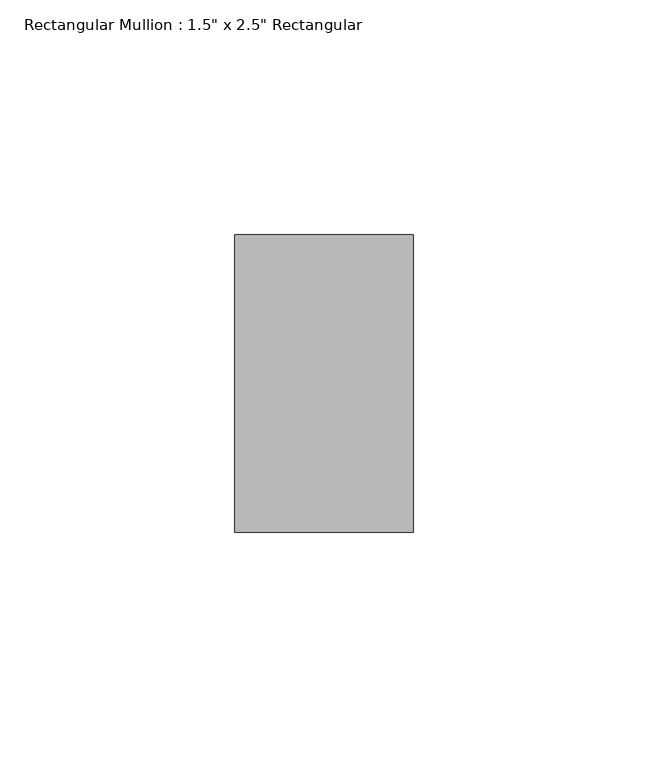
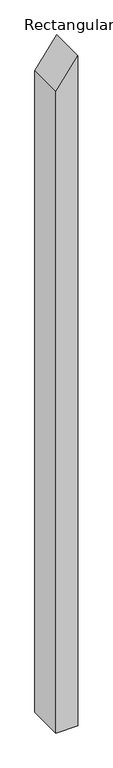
"""IFC4 building model written with IfcOpenShell, lengths in millimetres: member geometry."""

from ifc_helpers import new_model, si_unit, frame, origin, place, context, project, spatial, polyline, outline, extrude, source, transform, mapped, element, save


def member_521366c7(model_context):
    return source(origin(), model_context, "Body", "SweptSolid", [
        extrude(outline(polyline([(0.0, 0.0), (-52.8609263, -38.1), (-1234.9484829, -38.1), (-1234.9484829, 0.0), (0.0, 0.0)])), frame((0.0, -31.75, 0.0), z_axis=(0.0, 1.0, 0.0), x_axis=(0.0, 0.0, 1.0)), (0.0, 0.0, 1.0), 63.5),
    ])


if __name__ == "__main__":
    model = new_model("IFC4")
    model_context = context("Model", 3, world=origin())
    ifc_project = project(units=[si_unit("LENGTHUNIT", "METRE", prefix="MILLI")], contexts=[model_context])
    site = spatial("IfcSite", under=ifc_project)
    building = spatial("IfcBuilding", under=site)
    placement = place(None, origin())
    member_shape = member_521366c7(model_context)
    element("IfcMember", 1, ObjectType="Rectangular Mullion : 1.5\" x 2.5\" Rectangular", at=placement, inside=building, context=model_context, shape_type="MappedRepresentation", body=[
        mapped(member_shape, transform((0.0, 0.0, 0.0), x_axis=(1.0, 0.0, 0.0), y_axis=(0.0, 1.0, 0.0), z_axis=(0.0, 0.0, 1.0))),
    ])
    save(model, "model.ifc")
